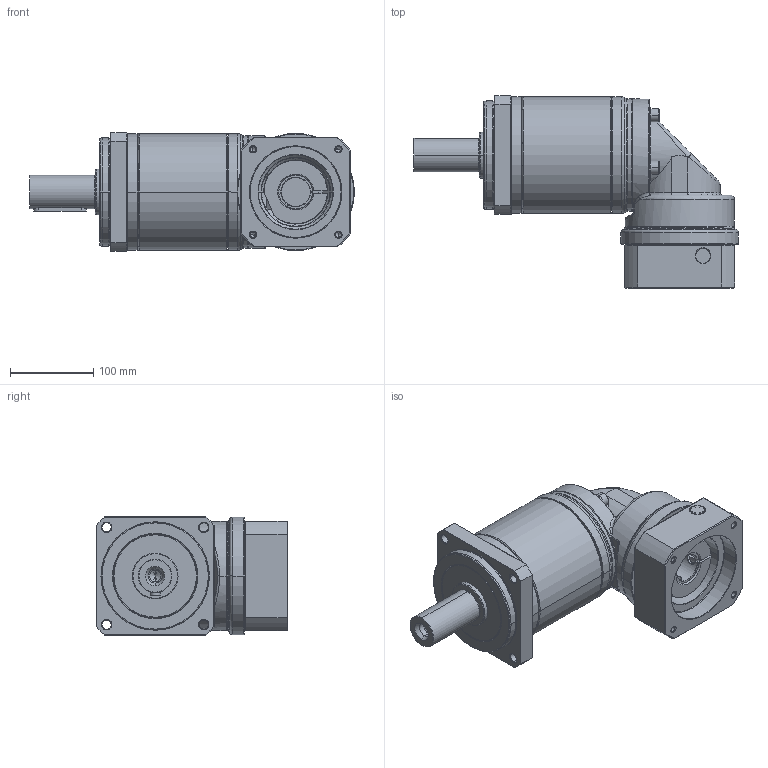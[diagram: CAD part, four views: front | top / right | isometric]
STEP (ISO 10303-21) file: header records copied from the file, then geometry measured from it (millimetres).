
FILE_DESCRIPTION((''),'2;1');
FILE_NAME('PA2R-142_2ST_35-P0411800101_ASM','2016-05-17T',('d01943'),(''),'PRO/ENGINEER BY PARAMETRIC TECHNOLOGY CORPORATION, 2008410','PRO/ENGINEER BY PARAMETRIC TECHNOLOGY CORPORATION, 2008410','');
FILE_SCHEMA(('CONFIG_CONTROL_DESIGN'));
Length unit declared in the file: millimetre
Products named in the file (12): P1327510001; P0251500001; P0350500601; P1349500001; P1017500001; P0713504001; P0503800010; P1350500401; P0411800101; P1702600001; 2111BA10040; PA2R-142_2ST_35-P0411800101_ASM
Assembly tree (14 placements, depth 2):
  PA2R-142_2ST_35-P0411800101_ASM
    P1327510001
    P0251500001
    P0350500601
    P1349500001
    P1017500001
    P0713504001
    P0503800010
    P1350500401
    P0411800101
    P1702600001
    2111BA10040  x4
Bounding box: 390 x 230.5 x 142 mm (x, y, z)
Volume: 3224129.5 mm3; surface area: 534059.6 mm2
Topology: 14 solids, 14 shells, 742 faces, 1633 edges, 943 vertices
Faces by surface type: cylinder 220, cone 214, plane 168, torus 108, bspline 32
Entity records: 23659 total; most frequent: CARTESIAN_POINT 9261, DIRECTION 3185, ORIENTED_EDGE 2794, EDGE_CURVE 1397, AXIS2_PLACEMENT_3D 1343, VERTEX_POINT 823, EDGE_LOOP 724, CIRCLE 706
